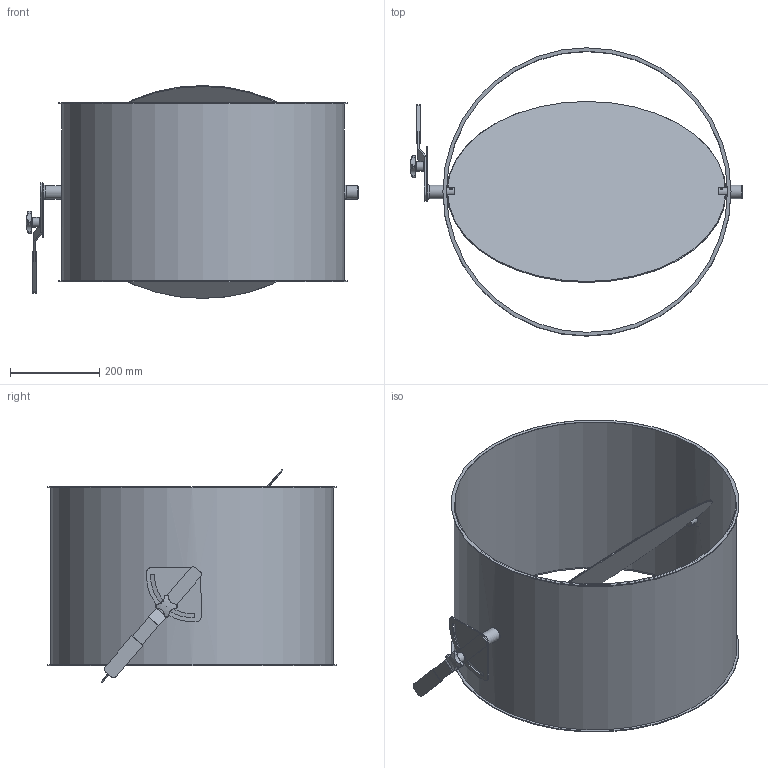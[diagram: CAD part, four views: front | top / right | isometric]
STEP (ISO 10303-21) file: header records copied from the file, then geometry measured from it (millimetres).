
FILE_DESCRIPTION((''),'2;1');
FILE_NAME('U:\Wolfgang\Marcel-3D\fertig\Kapitel 8\6321075.stp','2012-01-13T11:23:00',('iwienholt'),(''),'Autodesk Inventor 2010','Autodesk Inventor 2010','');
FILE_SCHEMA(('AUTOMOTIVE_DESIGN { 1 0 10303 214 1 1 1 1 }'));
Length unit declared in the file: millimetre
Products named in the file (7): 6321075; Bolzen D20; ganter_din_6335-ku-50-m10-k; Griff D20; Scheibe630; Umstellsegment D20; 6321075-1
Assembly tree (6 placements, depth 2):
  6321075
    Bolzen D20
    ganter_din_6335-ku-50-m10-k
    Griff D20
    Scheibe630
    Umstellsegment D20
    6321075-1
Bounding box: 742 x 644 x 475.82 mm (x, y, z)
Volume: 2708771.5 mm3; surface area: 2324066.2 mm2
Topology: 6 solids, 6 shells, 119 faces, 304 edges, 206 vertices
Faces by surface type: plane 51, cylinder 46, torus 9, bspline 7, cone 5, sphere 1
Full cylindrical faces by diameter (mm): 6 x4, 8 x1, 9 x1, 10 x2, 16 x1, 20 x6, 22 x1, 30 x3, 624 x1, 628 x1, 632 x1, 644 x2
Entity records: 4491 total; most frequent: CARTESIAN_POINT 1626, DIRECTION 566, ORIENTED_EDGE 492, EDGE_CURVE 246, AXIS2_PLACEMENT_3D 240, EDGE_LOOP 188, VERTEX_POINT 186, FACE_OUTER_BOUND 119
